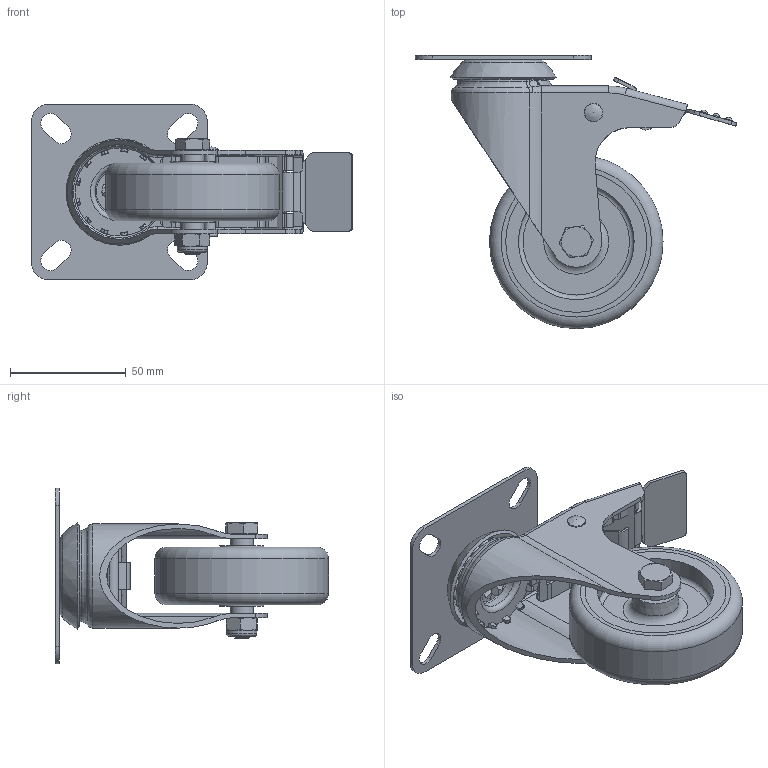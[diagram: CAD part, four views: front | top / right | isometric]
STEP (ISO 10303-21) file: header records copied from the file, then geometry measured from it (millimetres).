
FILE_DESCRIPTION(/* description */ ('www.motedis.com/part/10031','CAx-IF Rec.Pracs.---Representation and Presentation of Product Manufacturing Information (PMI)---4.0---2014-10-13'),/* implementation_level */ '2;1');
FILE_NAME(/* name */ 'Motedis 10031.stp',/* time_stamp */ '2026-04-22T15:35:28+02:00',/* author */ ('Motedis'),/* organization */ ('Motedis GmbH'),/* preprocessor_version */ 'ST-DEVELOPER v20.1',/* originating_system */ 'Autodesk Inventor 2026',/* authorisation */ 'Motedis GmbH');
FILE_SCHEMA (('AP242_MANAGED_MODEL_BASED_3D_ENGINEERING_MIM_LF { 1 0 10303 442 2 1 4 }'));
Products named in the file (2): Motedis 10031; Motedis 10031_Simplify_1
Assembly tree (1 placements, depth 2):
  Motedis 10031
    Motedis 10031_Simplify_1
Bounding box: 138.81 x 118 x 76 mm (x, y, z)
Volume: 122958.6 mm3; surface area: 74250.6 mm2
Topology: 26 solids, 26 shells, 688 faces, 1796 edges, 1156 vertices
Faces by surface type: plane 261, cylinder 242, bspline 74, cone 57, torus 39, sphere 15
Full cylindrical faces by diameter (mm): 5 x3, 6.8 x2, 8 x40, 8.5 x3, 9 x1, 10 x1, 10.5 x1, 13 x1, 21 x1, 24 x1, 25 x1, 38 x1, 50 x2, 75 x1
Entity records: 38848 total; most frequent: CARTESIAN_POINT 21691, ORIENTED_EDGE 3534, DIRECTION 3265, EDGE_CURVE 1767, AXIS2_PLACEMENT_3D 1250, VERTEX_POINT 1156, LINE 765, VECTOR 765
